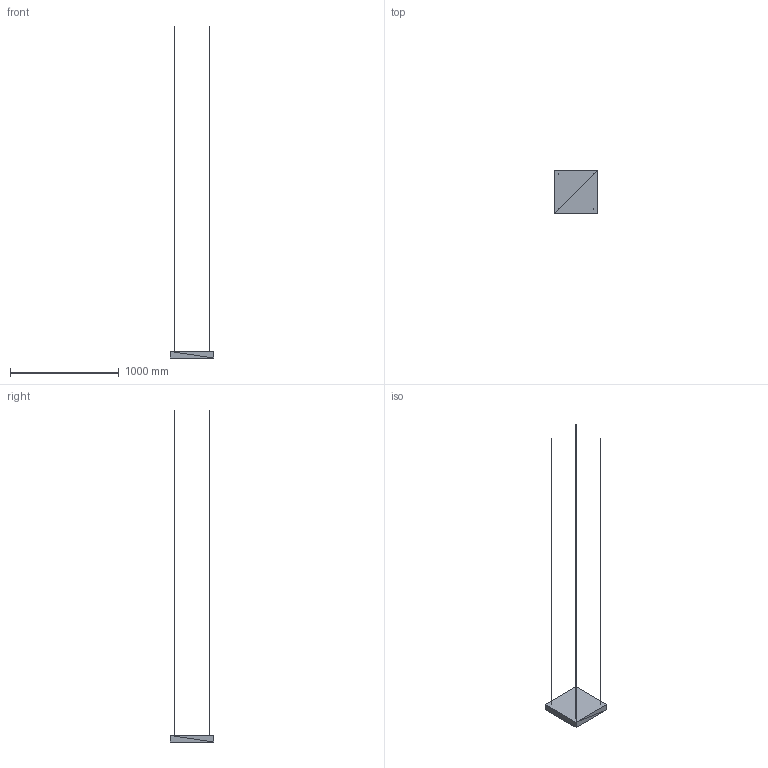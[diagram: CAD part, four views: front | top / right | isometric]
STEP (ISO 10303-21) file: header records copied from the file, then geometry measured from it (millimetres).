
FILE_DESCRIPTION(('ISINAC STEP AP214'),'2;1');
FILE_NAME('ISINAC_C.400_60mm_COLGADO','2026-05-03T10:49:19',('ISINAC'),('www.isinac.com'),'ISINAC BIM Generator 1.0','','');
FILE_SCHEMA(('AUTOMOTIVE_DESIGN'));
Length unit declared in the file: millimetre
Products named in the file (1): ISINAC_C.400_60mm_COLGADO
Bounding box: 400 x 400 x 3060 mm (x, y, z)
Surface area: 524046 mm2 (no closed solid volume)
Topology: 0 solids, 92 shells, 92 faces, 276 edges, 276 vertices
Faces by surface type: plane 92
Entity records: 1025 total; most frequent: CARTESIAN_POINT 368, DIRECTION 184, POLY_LOOP 92, FACE_OUTER_BOUND 92, AXIS2_PLACEMENT_3D 92, PLANE 92, FACE_SURFACE 92, CLOSED_SHELL 1
